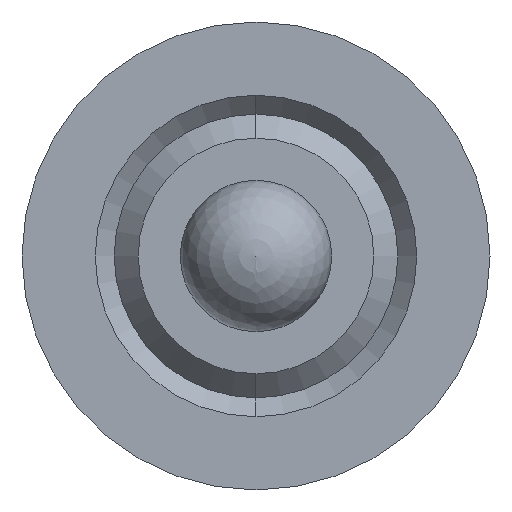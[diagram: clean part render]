
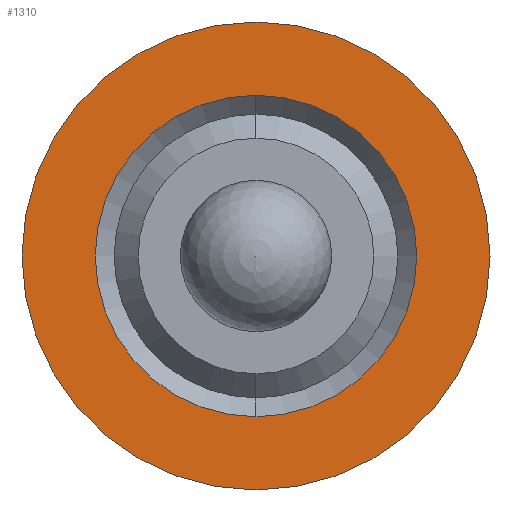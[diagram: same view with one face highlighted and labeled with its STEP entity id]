
A CAD part, left-side view. The second image highlights one B-rep face of the part: STEP entity #1310.
In plain terms, the highlighted planar face has unit normal (-1, 0, 0).
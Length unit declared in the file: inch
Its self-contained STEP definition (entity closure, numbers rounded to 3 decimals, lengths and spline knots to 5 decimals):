
#10 = EDGE_CURVE ( 'NONE', #784, #102, #68, .T. ) ;
#68 = CIRCLE ( 'NONE', #777, 0.09744 ) ;
#102 = VERTEX_POINT ( 'NONE', #500 ) ;
#107 = CIRCLE ( 'NONE', #1450, 0.06693 ) ;
#287 = AXIS2_PLACEMENT_3D ( 'NONE', #426, #424, #421 ) ;
#346 = CIRCLE ( 'NONE', #1139, 0.09744 ) ;
#382 = DIRECTION ( 'NONE',  ( 0., 1., 0. ) ) ;
#383 = FACE_BOUND ( 'NONE', #419, .T. ) ;
#384 = DIRECTION ( 'NONE',  ( 1., 0., 0. ) ) ;
#387 = CARTESIAN_POINT ( 'NONE',  ( 0.34186, 0.77487, 0.9751 ) ) ;
#408 = PLANE ( 'NONE',  #922 ) ;
#419 = EDGE_LOOP ( 'NONE', ( #605, #722 ) ) ;
#421 = DIRECTION ( 'NONE',  ( 0., 1., 0. ) ) ;
#424 = DIRECTION ( 'NONE',  ( 1., 0., 0. ) ) ;
#426 = CARTESIAN_POINT ( 'NONE',  ( 0.34186, 0.67743, 0.9751 ) ) ;
#467 = EDGE_CURVE ( 'NONE', #102, #784, #346, .T. ) ;
#500 = CARTESIAN_POINT ( 'NONE',  ( 0.34186, 0.77487, 0.9751 ) ) ;
#546 = ORIENTED_EDGE ( 'NONE', *, *, #467, .T. ) ;
#548 = CARTESIAN_POINT ( 'NONE',  ( 0.34186, 0.67743, 1.04203 ) ) ;
#594 = CARTESIAN_POINT ( 'NONE',  ( 0.34186, 0.57999, 0.9751 ) ) ;
#605 = ORIENTED_EDGE ( 'NONE', *, *, #1288, .T. ) ;
#695 = FACE_OUTER_BOUND ( 'NONE', #724, .T. ) ;
#708 = VERTEX_POINT ( 'NONE', #548 ) ;
#722 = ORIENTED_EDGE ( 'NONE', *, *, #1064, .T. ) ;
#724 = EDGE_LOOP ( 'NONE', ( #963, #546 ) ) ;
#759 = CARTESIAN_POINT ( 'NONE',  ( 0.34186, 0.67743, 0.90818 ) ) ;
#777 = AXIS2_PLACEMENT_3D ( 'NONE', #1005, #1181, #1197 ) ;
#784 = VERTEX_POINT ( 'NONE', #594 ) ;
#874 = DIRECTION ( 'NONE',  ( 0., -1., 0. ) ) ;
#900 = VERTEX_POINT ( 'NONE', #759 ) ;
#922 = AXIS2_PLACEMENT_3D ( 'NONE', #387, #384, #382 ) ;
#939 = DIRECTION ( 'NONE',  ( -1., 0., 0. ) ) ;
#963 = ORIENTED_EDGE ( 'NONE', *, *, #10, .T. ) ;
#967 = CARTESIAN_POINT ( 'NONE',  ( 0.34186, 0.67743, 0.9751 ) ) ;
#969 = DIRECTION ( 'NONE',  ( 1., 0., 0. ) ) ;
#970 = DIRECTION ( 'NONE',  ( 0., 1., 0. ) ) ;
#1005 = CARTESIAN_POINT ( 'NONE',  ( 0.34186, 0.67743, 0.9751 ) ) ;
#1012 = CIRCLE ( 'NONE', #287, 0.06693 ) ;
#1064 = EDGE_CURVE ( 'NONE', #900, #708, #107, .T. ) ;
#1139 = AXIS2_PLACEMENT_3D ( 'NONE', #1199, #939, #874 ) ;
#1181 = DIRECTION ( 'NONE',  ( -1., 0., 0. ) ) ;
#1197 = DIRECTION ( 'NONE',  ( 0., -1., 0. ) ) ;
#1199 = CARTESIAN_POINT ( 'NONE',  ( 0.34186, 0.67743, 0.9751 ) ) ;
#1288 = EDGE_CURVE ( 'NONE', #708, #900, #1012, .T. ) ;
#1310 = ADVANCED_FACE ( 'NONE', ( #383, #695 ), #408, .F. ) ;
#1450 = AXIS2_PLACEMENT_3D ( 'NONE', #967, #969, #970 ) ;
